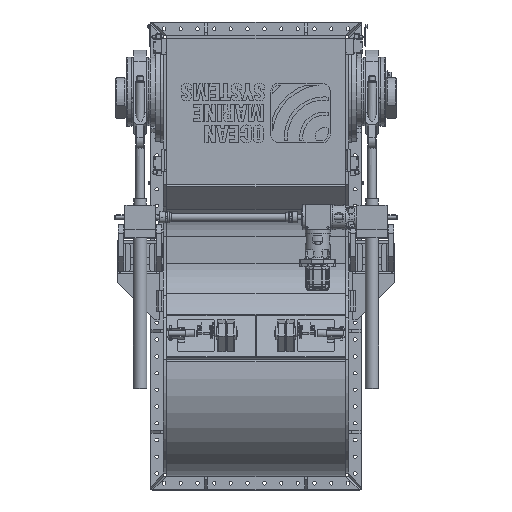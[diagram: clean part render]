
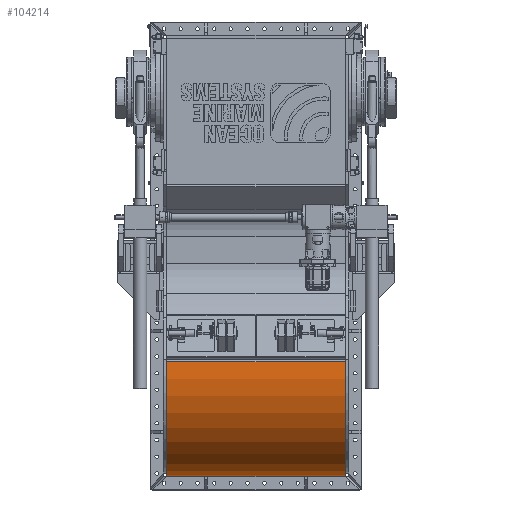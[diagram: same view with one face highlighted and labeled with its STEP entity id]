
A CAD part, top view. The second image highlights one B-rep face of the part: STEP entity #104214.
In plain terms, the highlighted cylindrical face has radius 497.5 mm (diameter 995 mm), a partial arc.
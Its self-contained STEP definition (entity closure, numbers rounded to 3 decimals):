
#5621=CYLINDRICAL_SURFACE('',#111339,497.5);
#9299=FACE_OUTER_BOUND('',#15242,.T.);
#15242=EDGE_LOOP('',(#76076,#76077,#76078,#76079));
#20696=CIRCLE('',#111340,497.5);
#20697=CIRCLE('',#111341,497.5);
#26116=LINE('',#194043,#34058);
#26117=LINE('',#194047,#34059);
#34058=VECTOR('',#127208,10.);
#34059=VECTOR('',#127211,10.);
#43148=VERTEX_POINT('',#194041);
#43149=VERTEX_POINT('',#194042);
#43150=VERTEX_POINT('',#194044);
#43151=VERTEX_POINT('',#194046);
#55005=EDGE_CURVE('',#43148,#43149,#26116,.T.);
#55006=EDGE_CURVE('',#43148,#43150,#20696,.T.);
#55007=EDGE_CURVE('',#43151,#43150,#26117,.T.);
#55008=EDGE_CURVE('',#43149,#43151,#20697,.T.);
#76076=ORIENTED_EDGE('',*,*,#55005,.F.);
#76077=ORIENTED_EDGE('',*,*,#55006,.T.);
#76078=ORIENTED_EDGE('',*,*,#55007,.F.);
#76079=ORIENTED_EDGE('',*,*,#55008,.F.);
#104214=ADVANCED_FACE('',(#9299),#5621,.T.);
#111339=AXIS2_PLACEMENT_3D('',#194040,#127206,#127207);
#111340=AXIS2_PLACEMENT_3D('',#194045,#127209,#127210);
#111341=AXIS2_PLACEMENT_3D('',#194048,#127212,#127213);
#127206=DIRECTION('center_axis',(1.,0.,0.));
#127207=DIRECTION('ref_axis',(0.,0.129,0.992));
#127208=DIRECTION('',(1.,0.,0.));
#127209=DIRECTION('center_axis',(1.,0.,0.));
#127210=DIRECTION('ref_axis',(0.,0.129,0.992));
#127211=DIRECTION('',(-1.,0.,0.));
#127212=DIRECTION('center_axis',(1.,0.,0.));
#127213=DIRECTION('ref_axis',(0.,0.129,0.992));
#194040=CARTESIAN_POINT('Origin',(-442.5,-1342.5,47.5));
#194041=CARTESIAN_POINT('',(-870.,-1291.07,542.334));
#194042=CARTESIAN_POINT('',(-15.,-1291.07,542.334));
#194043=CARTESIAN_POINT('',(-442.5,-1291.07,542.334));
#194044=CARTESIAN_POINT('',(-870.,-1840.,47.5));
#194045=CARTESIAN_POINT('Origin',(-870.,-1342.5,47.5));
#194046=CARTESIAN_POINT('',(-15.,-1840.,47.5));
#194047=CARTESIAN_POINT('',(-442.5,-1840.,47.5));
#194048=CARTESIAN_POINT('Origin',(-15.,-1342.5,47.5));
